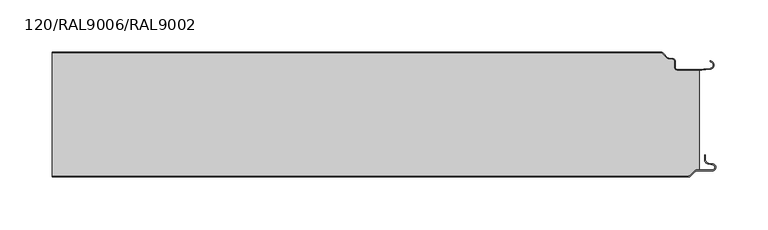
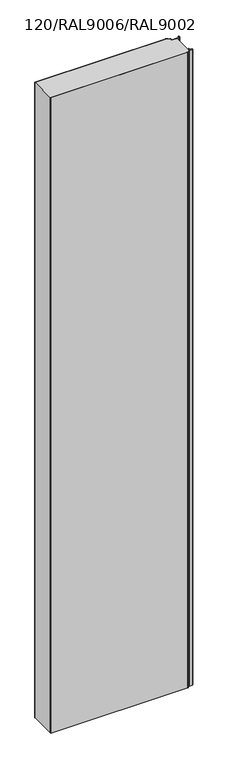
"""IFC4 building model written with IfcOpenShell, lengths in millimetres: plate geometry, TR_C_V_FHL_Panel_cut_TONGUE : 120/RAL9006/RAL9002."""

from ifc_helpers import new_model, si_unit, point, frame_2d, origin, origin_with_axes, place, context, project, spatial, polyline, circle_curve, trimmed, segment, composite_curve, outline, extrude, source, transform, mapped, element, save


def plate_120_ral9006_ral9002_7ea08fae(model_context):
    return source(origin(), model_context, "Body", "SweptSolid", [
        extrude(outline(composite_curve([segment(trimmed(circle_curve(frame_2d((299.8218253, -117.0)), 3.0), [point((301.9431456, -119.1213203))], [point((299.8218253, -120.0))], False, "CARTESIAN"), True, "CONTINUOUS"), segment(polyline([(299.8218253, -120.0), (-309.9999998, -120.0), (-309.9999998, -119.2), (299.8218253, -119.2)]), True, "CONTINUOUS"), segment(trimmed(circle_curve(frame_2d((299.8218253, -117.0)), 2.2), [point((299.8218253, -119.2))], [point((301.3774602, -118.5556349))], True, "CARTESIAN"), True, "CONTINUOUS"), segment(polyline([(301.3774602, -118.5556349), (305.7665475, -114.1665476)]), True, "CONTINUOUS"), segment(trimmed(circle_curve(frame_2d((308.0999998, -116.5)), 3.3), [point((305.7665475, -114.1665476))], [point((308.0999998, -113.2))], False, "CARTESIAN"), True, "CONTINUOUS"), segment(polyline([(308.0999998, -113.2), (322.8499998, -113.2)]), True, "CONTINUOUS"), segment(trimmed(circle_curve(frame_2d((322.8499998, -110.75)), 2.45), [point((322.8499998, -113.2))], [point((323.2754379, -108.337221))], True, "CARTESIAN"), True, "CONTINUOUS"), segment(polyline([(323.2754379, -108.337221), (319.0599006, -107.5939081)]), True, "CONTINUOUS"), segment(trimmed(circle_curve(frame_2d((319.8499998, -103.1130328)), 4.55), [point((319.0599006, -107.5939081))], [point((315.2999998, -103.1130328))], False, "CARTESIAN"), True, "CONTINUOUS"), segment(polyline([(315.2999998, -103.1130328), (315.2999998, -99.0), (316.0999998, -99.0), (316.0999998, -103.1130328)]), True, "CONTINUOUS"), segment(trimmed(circle_curve(frame_2d((319.8499998, -103.1130328)), 3.75), [point((316.0999998, -103.1130328))], [point((319.1988192, -106.8060618))], True, "CARTESIAN"), True, "CONTINUOUS"), segment(polyline([(319.1988192, -106.8060618), (323.4143564, -107.5493748)]), True, "CONTINUOUS"), segment(trimmed(circle_curve(frame_2d((322.8499998, -110.75)), 3.25), [point((323.4143564, -107.5493748))], [point((322.8499998, -114.0))], False, "CARTESIAN"), True, "CONTINUOUS"), segment(polyline([(322.8499998, -114.0), (308.0999998, -114.0)]), True, "CONTINUOUS"), segment(trimmed(circle_curve(frame_2d((308.0999998, -116.5)), 2.5), [point((308.0999998, -114.0))], [point((306.3322329, -114.732233))], True, "CARTESIAN"), True, "CONTINUOUS"), segment(polyline([(306.3322329, -114.732233), (301.9431456, -119.1213203)]), True, "CONTINUOUS")], self_intersect=False)), origin_with_axes(), (0.0, 0.0, 1.0), 2980.0),
        extrude(outline(composite_curve([segment(trimmed(circle_curve(frame_2d((273.4370796, -2.7)), 1.9), [point((273.4370796, -0.8))], [point((274.7805825, -1.3564971))], False, "CARTESIAN"), True, "CONTINUOUS"), segment(polyline([(274.7805825, -1.3564971), (279.6039843, -6.179899)]), True, "CONTINUOUS"), segment(trimmed(circle_curve(frame_2d((281.5838833, -4.2)), 2.8), [point((279.6039843, -6.179899))], [point((281.5838833, -7.0))], True, "CARTESIAN"), True, "CONTINUOUS"), segment(polyline([(281.5838833, -7.0), (284.3999998, -7.0)]), True, "CONTINUOUS"), segment(trimmed(circle_curve(frame_2d((284.3999998, -8.9)), 1.9), [point((284.3999998, -7.0))], [point((286.2999998, -8.9))], False, "CARTESIAN"), True, "CONTINUOUS"), segment(polyline([(286.2999998, -8.9), (286.2999998, -14.8)]), True, "CONTINUOUS"), segment(trimmed(circle_curve(frame_2d((289.0999998, -14.8)), 2.8), [point((286.2999998, -14.8))], [point((289.0999998, -17.6))], True, "CARTESIAN"), True, "CONTINUOUS"), segment(polyline([(289.0999998, -17.6), (308.2349286, -17.6), (309.9999998, -17.4455763), (309.9999998, -113.2), (308.0999998, -113.2)]), True, "CONTINUOUS"), segment(trimmed(circle_curve(frame_2d((308.0999998, -116.5)), 3.3), [point((308.0999998, -113.2))], [point((305.7665475, -114.1665476))], True, "CARTESIAN"), True, "CONTINUOUS"), segment(polyline([(305.7665475, -114.1665476), (301.3774602, -118.5556349)]), True, "CONTINUOUS"), segment(trimmed(circle_curve(frame_2d((299.8218253, -117.0)), 2.2), [point((301.3774602, -118.5556349))], [point((299.8218253, -119.2))], False, "CARTESIAN"), True, "CONTINUOUS"), segment(polyline([(299.8218253, -119.2), (-309.9999998, -119.2), (-309.9999998, -0.8), (273.4370796, -0.8)]), True, "CONTINUOUS")], self_intersect=False)), origin_with_axes(), (0.0, 0.0, 1.0), 2980.0),
        extrude(outline(composite_curve([segment(trimmed(circle_curve(frame_2d((273.4370796, -2.7)), 1.9), [point((274.7805825, -1.3564971))], [point((273.4370796, -0.8))], True, "CARTESIAN"), True, "CONTINUOUS"), segment(polyline([(273.4370796, -0.8), (-309.9999998, -0.8), (-309.9999998, 0.0), (273.4370796, 0.0)]), True, "CONTINUOUS"), segment(trimmed(circle_curve(frame_2d((273.4370796, -2.7)), 2.7), [point((273.4370796, 0.0))], [point((275.3462679, -0.7908117))], False, "CARTESIAN"), True, "CONTINUOUS"), segment(polyline([(275.3462679, -0.7908117), (280.1696698, -5.6142136)]), True, "CONTINUOUS"), segment(trimmed(circle_curve(frame_2d((281.5838833, -4.2)), 2.0), [point((280.1696698, -5.6142136))], [point((281.5838833, -6.2))], True, "CARTESIAN"), True, "CONTINUOUS"), segment(polyline([(281.5838833, -6.2), (284.3999998, -6.2)]), True, "CONTINUOUS"), segment(trimmed(circle_curve(frame_2d((284.3999998, -8.9)), 2.7), [point((284.3999998, -6.2))], [point((287.0999998, -8.9))], False, "CARTESIAN"), True, "CONTINUOUS"), segment(polyline([(287.0999998, -8.9), (287.0999998, -14.8)]), True, "CONTINUOUS"), segment(trimmed(circle_curve(frame_2d((289.0999998, -14.8)), 2.0), [point((287.0999998, -14.8))], [point((289.0999998, -16.8))], True, "CARTESIAN"), True, "CONTINUOUS"), segment(polyline([(289.0999998, -16.8), (308.1999998, -16.8), (320.6788982, -15.7082379)]), True, "CONTINUOUS"), segment(trimmed(circle_curve(frame_2d((320.3999998, -12.5204148)), 3.2), [point((320.6788982, -15.7082379))], [point((321.4418179, -9.4947554))], True, "CARTESIAN"), True, "CONTINUOUS"), segment(polyline([(321.4418179, -9.4947554), (320.542633, -9.1851412), (320.8030875, -8.4287263), (321.7022725, -8.7383405)]), True, "CONTINUOUS"), segment(trimmed(circle_curve(frame_2d((320.3999998, -12.5204148)), 4.0), [point((321.7022725, -8.7383405))], [point((320.7486228, -16.5051936))], False, "CARTESIAN"), True, "CONTINUOUS"), segment(polyline([(320.7486228, -16.5051936), (308.2349286, -17.6), (289.0999998, -17.6)]), True, "CONTINUOUS"), segment(trimmed(circle_curve(frame_2d((289.0999998, -14.8)), 2.8), [point((289.0999998, -17.6))], [point((286.2999998, -14.8))], False, "CARTESIAN"), True, "CONTINUOUS"), segment(polyline([(286.2999998, -14.8), (286.2999998, -8.9)]), True, "CONTINUOUS"), segment(trimmed(circle_curve(frame_2d((284.3999998, -8.9)), 1.9), [point((286.2999998, -8.9))], [point((284.3999998, -7.0))], True, "CARTESIAN"), True, "CONTINUOUS"), segment(polyline([(284.3999998, -7.0), (281.5838833, -7.0)]), True, "CONTINUOUS"), segment(trimmed(circle_curve(frame_2d((281.5838833, -4.2)), 2.8), [point((281.5838833, -7.0))], [point((279.6039843, -6.179899))], False, "CARTESIAN"), True, "CONTINUOUS"), segment(polyline([(279.6039843, -6.179899), (274.7805825, -1.3564971)]), True, "CONTINUOUS")], self_intersect=False)), origin_with_axes(), (0.0, 0.0, 1.0), 2980.0),
    ])


if __name__ == "__main__":
    model = new_model("IFC4")
    model_context = context("Model", 3, world=origin())
    ifc_project = project(units=[si_unit("LENGTHUNIT", "METRE", prefix="MILLI")], contexts=[model_context])
    site = spatial("IfcSite", under=ifc_project)
    building = spatial("IfcBuilding", under=site)
    placement = place(None, origin())
    plate_120_ral9006_ral9002_shape = plate_120_ral9006_ral9002_7ea08fae(model_context)
    element("IfcPlate", 1, ObjectType="TR_C_V_FHL_Panel_cut_TONGUE : 120/RAL9006/RAL9002", at=placement, inside=building, context=model_context, shape_type="MappedRepresentation", body=[
        mapped(plate_120_ral9006_ral9002_shape, transform((0.0, 0.0, 0.0), x_axis=(1.0, 0.0, 0.0), y_axis=(0.0, 1.0, 0.0), z_axis=(0.0, 0.0, 1.0))),
    ])
    save(model, "model.ifc")
